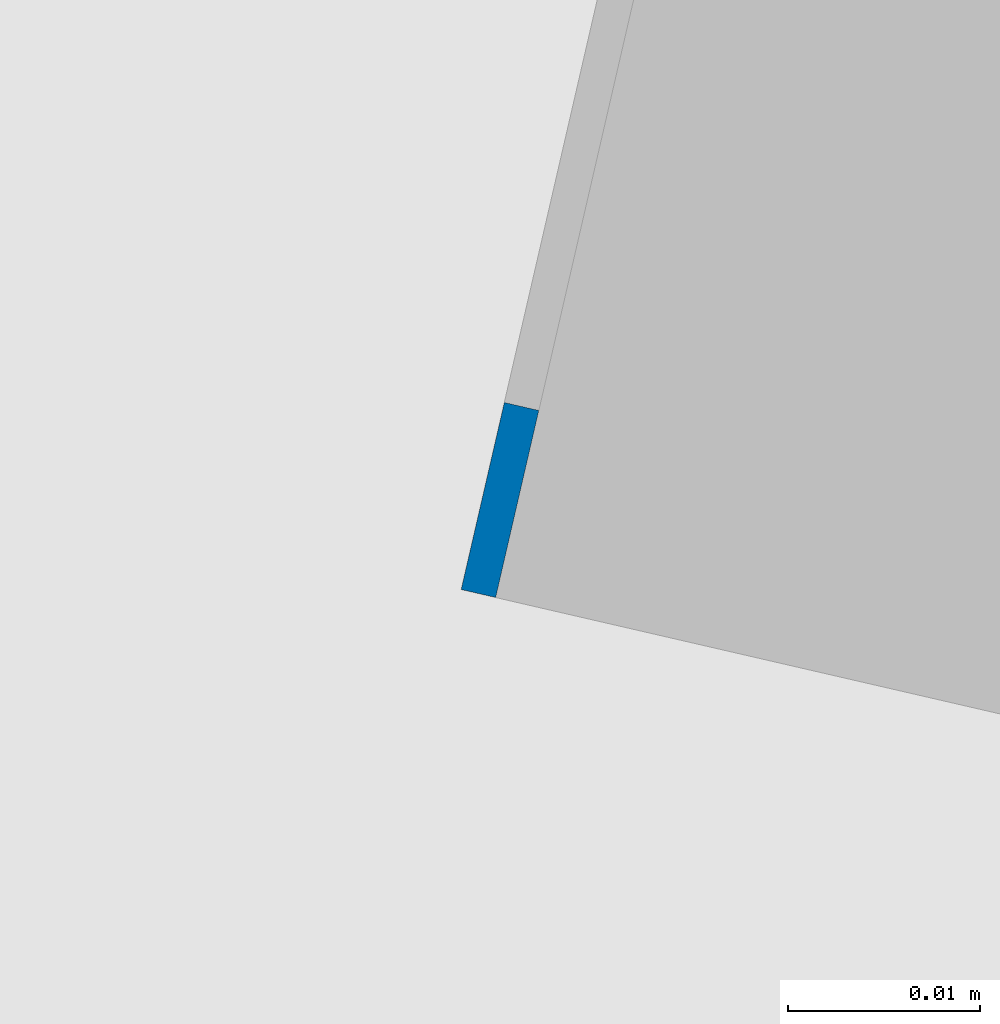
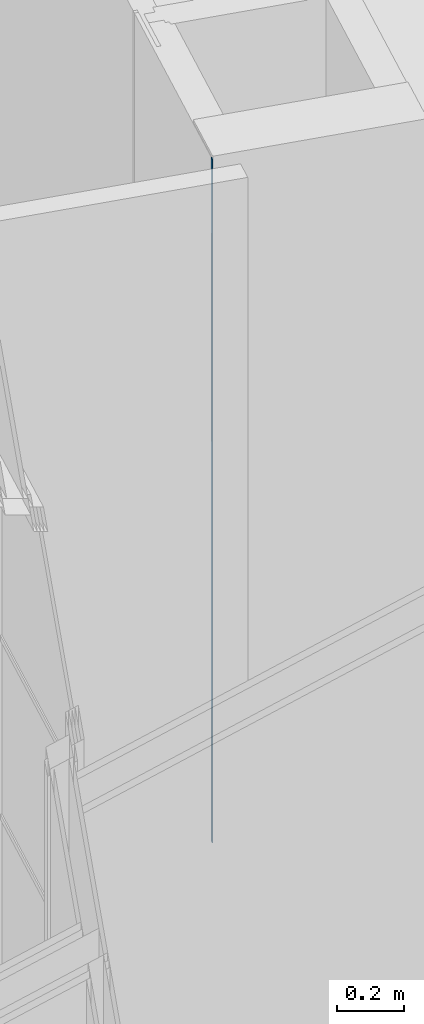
# One storey, part 49 of 91: 1 wall.
"""IFC2X3 building model written with IfcOpenShell, lengths in metres."""

from ifc_helpers import new_model, entity, si_unit, converted_unit, derived_unit, money_unit, direction, frame, origin_with_axes, place, context, subcontext, project, spatial, faceted_brep, material, type_object, element, save


model = new_model("IFC2X3")

# Units and contexts
model_context = context("Model", 3, precision=1e-05, world=origin_with_axes(), true_north=direction((0.0, 1.0)))
body_context = subcontext(model_context, "Body", "Model", "MODEL_VIEW")
ifc_project = project(units=[si_unit("LENGTHUNIT", "METRE"), si_unit("AREAUNIT", "SQUARE_METRE"), si_unit("VOLUMEUNIT", "CUBIC_METRE"), converted_unit("PLANEANGLEUNIT", "DEGREE", entity("IfcPlaneAngleMeasure", 0.0174532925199), si_unit("PLANEANGLEUNIT", "RADIAN"), dimensions=[0, 0, 0, 0, 0, 0, 0]), si_unit("SOLIDANGLEUNIT", "STERADIAN"), money_unit("EUR"), converted_unit("TIMEUNIT", "Year", entity("IfcTimeMeasure", 31556926.0), si_unit("TIMEUNIT", "SECOND"), dimensions=[0, 0, 1, 0, 0, 0, 0]), si_unit("MASSUNIT", "GRAM", prefix="KILO"), si_unit("THERMODYNAMICTEMPERATUREUNIT", "DEGREE_CELSIUS"), si_unit("LUMINOUSINTENSITYUNIT", "LUMEN"), si_unit("ENERGYUNIT", "JOULE", prefix="MEGA"), derived_unit("THERMALCONDUCTANCEUNIT", [(si_unit("POWERUNIT", "WATT"), 1), (si_unit("LENGTHUNIT", "METRE"), -1), (si_unit("THERMODYNAMICTEMPERATUREUNIT", "KELVIN"), -1)]), derived_unit("SPECIFICHEATCAPACITYUNIT", [(si_unit("ENERGYUNIT", "JOULE"), 1), (si_unit("MASSUNIT", "GRAM", prefix="KILO"), -1), (si_unit("THERMODYNAMICTEMPERATUREUNIT", "KELVIN"), -1)]), derived_unit("MASSDENSITYUNIT", [(si_unit("MASSUNIT", "GRAM", prefix="KILO"), 1), (si_unit("VOLUMEUNIT", "CUBIC_METRE"), -1)])], contexts=[model_context])

# Site, building, storey
site_placement = place(None, origin_with_axes())
site = spatial("IfcSite", under=ifc_project, at=site_placement, Name="Site", CompositionType="ELEMENT")
building_placement = place(site_placement, origin_with_axes())
building = spatial("IfcBuilding", under=site, at=building_placement, Name="Bâtiment", CompositionType="ELEMENT")
storey_placement = place(building_placement, frame((0.0, 0.0, 5.44), z_axis=(0.0, 0.0, 1.0), x_axis=(1.0, 0.0, 0.0)))
storey = spatial("IfcBuildingStorey", under=building, at=storey_placement, Name="R+2", CompositionType="ELEMENT", Elevation=5.44)

# Wall
ifc_material = material(Name="Finition int - Plaque de plâtre")
wall_type = type_object("IfcWallType", Name="3 - Cloison 72mm Placostil 74", PredefinedType="USERDEFINED")
wall_placement = place(storey_placement, frame((-4.17547661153, 13.8115816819, 0.0), z_axis=(0.0, 0.0, 1.0), x_axis=(-0.224876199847, -0.974387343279, 0.0)))
element("IfcWall", 1, at=wall_placement, inside=storey, type_object=wall_type, material=ifc_material, Name="Cloison Placostil 72/48", ObjectType="PARTITIONING", context=body_context, shape_type="Brep", body=[
    faceted_brep([(0.0100000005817, -0.0721547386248, 2.5), (0.0, -0.0721547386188, 2.5), (0.0, -0.074, 2.5), (0.0100000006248, -0.074, 2.5), (0.0, -0.0721547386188, 0.0), (0.0100000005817, -0.0721547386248, 0.0), (0.0, -0.074, 0.0), (0.0100000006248, -0.074, 0.0)], [[[0, 1, 2, 3]], [[4, 1, 0, 5]], [[1, 4, 6, 2]], [[2, 6, 7, 3]], [[5, 0, 3, 7]], [[4, 5, 7, 6]]]),
])

save(model, "model.ifc")
